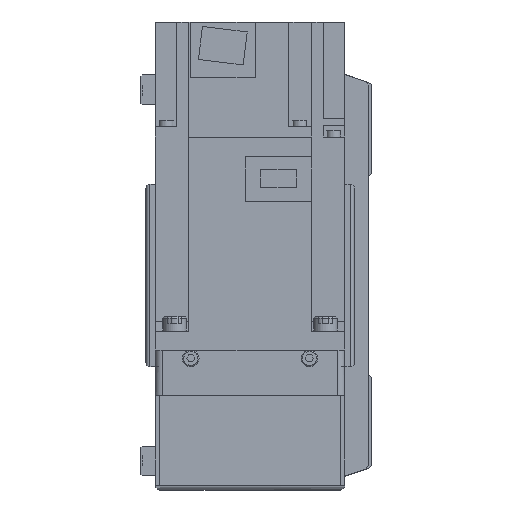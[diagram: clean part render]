
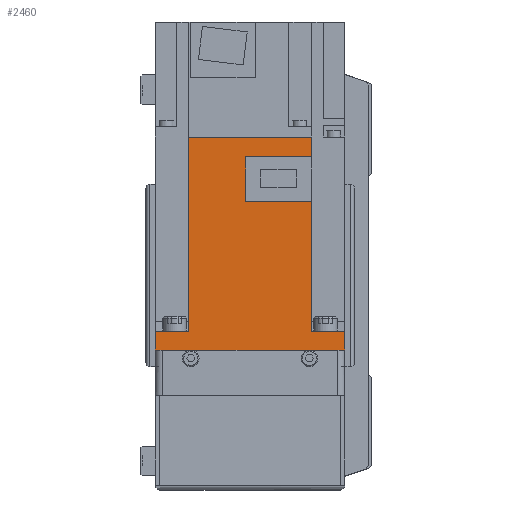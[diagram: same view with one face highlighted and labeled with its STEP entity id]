
A CAD part, left-side view. The second image highlights one B-rep face of the part: STEP entity #2460.
In plain terms, the highlighted planar face has unit normal (-1, 0, 0) as drawn and (1, 0, 0) by its records, which use the part's own axes.
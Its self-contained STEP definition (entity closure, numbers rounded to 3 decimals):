
#2460 = ADVANCED_FACE( '', ( #5361 ), #5362, .F. );
#5361 = FACE_OUTER_BOUND( '', #8669, .T. );
#5362 = PLANE( '', #8670 );
#8669 = EDGE_LOOP( '', ( #15677, #15678, #15679, #15680, #15681, #15682, #15683, #15684, #15685, #15686, #15687, #15688 ) );
#8670 = AXIS2_PLACEMENT_3D( '', #15689, #15690, #15691 );
#15677 = ORIENTED_EDGE( '', *, *, #19503, .F. );
#15678 = ORIENTED_EDGE( '', *, *, #21650, .F. );
#15679 = ORIENTED_EDGE( '', *, *, #21651, .F. );
#15680 = ORIENTED_EDGE( '', *, *, #21652, .T. );
#15681 = ORIENTED_EDGE( '', *, *, #21653, .F. );
#15682 = ORIENTED_EDGE( '', *, *, #20819, .T. );
#15683 = ORIENTED_EDGE( '', *, *, #21559, .T. );
#15684 = ORIENTED_EDGE( '', *, *, #20297, .F. );
#15685 = ORIENTED_EDGE( '', *, *, #21654, .F. );
#15686 = ORIENTED_EDGE( '', *, *, #21655, .F. );
#15687 = ORIENTED_EDGE( '', *, *, #21629, .F. );
#15688 = ORIENTED_EDGE( '', *, *, #21656, .F. );
#15689 = CARTESIAN_POINT( '', ( 40., 89.8, 40. ) );
#15690 = DIRECTION( '', ( -1., 0., 0. ) );
#15691 = DIRECTION( '', ( 0., 0., 1. ) );
#19503 = EDGE_CURVE( '', #23503, #23505, #23506, .T. );
#20297 = EDGE_CURVE( '', #24809, #24811, #24812, .T. );
#20819 = EDGE_CURVE( '', #25614, #25612, #25615, .T. );
#21559 = EDGE_CURVE( '', #25612, #24811, #26629, .T. );
#21629 = EDGE_CURVE( '', #26717, #26718, #26719, .T. );
#21650 = EDGE_CURVE( '', #26744, #23503, #26745, .T. );
#21651 = EDGE_CURVE( '', #26746, #26744, #26747, .T. );
#21652 = EDGE_CURVE( '', #26746, #26748, #26749, .T. );
#21653 = EDGE_CURVE( '', #25614, #26748, #26750, .T. );
#21654 = EDGE_CURVE( '', #26751, #24809, #26752, .T. );
#21655 = EDGE_CURVE( '', #26718, #26751, #26753, .T. );
#21656 = EDGE_CURVE( '', #23505, #26717, #26754, .T. );
#23503 = VERTEX_POINT( '', #29124 );
#23505 = VERTEX_POINT( '', #29127 );
#23506 = LINE( '', #29128, #29129 );
#24809 = VERTEX_POINT( '', #31066 );
#24811 = VERTEX_POINT( '', #31069 );
#24812 = LINE( '', #31070, #31071 );
#25612 = VERTEX_POINT( '', #32317 );
#25614 = VERTEX_POINT( '', #32320 );
#25615 = LINE( '', #32321, #32322 );
#26629 = LINE( '', #33883, #33884 );
#26717 = VERTEX_POINT( '', #34000 );
#26718 = VERTEX_POINT( '', #34001 );
#26719 = LINE( '', #34002, #34003 );
#26744 = VERTEX_POINT( '', #34038 );
#26745 = LINE( '', #34039, #34040 );
#26746 = VERTEX_POINT( '', #34041 );
#26747 = LINE( '', #34042, #34043 );
#26748 = VERTEX_POINT( '', #34044 );
#26749 = LINE( '', #34045, #34046 );
#26750 = LINE( '', #34047, #34048 );
#26751 = VERTEX_POINT( '', #34049 );
#26752 = LINE( '', #34050, #34051 );
#26753 = LINE( '', #34052, #34053 );
#26754 = LINE( '', #34054, #34055 );
#29124 = CARTESIAN_POINT( '', ( 40., 81.4, -25.95 ) );
#29127 = CARTESIAN_POINT( '', ( 40., 81.4, 1.8 ) );
#29128 = CARTESIAN_POINT( '', ( 40., 81.4, -26. ) );
#29129 = VECTOR( '', #36033, 1000. );
#31066 = CARTESIAN_POINT( '', ( 40., 8., -40. ) );
#31069 = CARTESIAN_POINT( '', ( 40., 0., -40. ) );
#31070 = CARTESIAN_POINT( '', ( 40., 89.8, -40. ) );
#31071 = VECTOR( '', #37022, 1000. );
#32317 = CARTESIAN_POINT( '', ( 40., 0., 40. ) );
#32320 = CARTESIAN_POINT( '', ( 40., 8., 40. ) );
#32321 = CARTESIAN_POINT( '', ( 40., 89.8, 40. ) );
#32322 = VECTOR( '', #37723, 1000. );
#33883 = CARTESIAN_POINT( '', ( 40., 0., 40. ) );
#33884 = VECTOR( '', #38606, 1000. );
#34000 = CARTESIAN_POINT( '', ( 40., 62.8, 1.8 ) );
#34001 = CARTESIAN_POINT( '', ( 40., 62.8, -25.95 ) );
#34002 = CARTESIAN_POINT( '', ( 40., 62.8, 1.8 ) );
#34003 = VECTOR( '', #38671, 1000. );
#34038 = CARTESIAN_POINT( '', ( 40., 89.8, -25.95 ) );
#34039 = CARTESIAN_POINT( '', ( 40., 158., -25.95 ) );
#34040 = VECTOR( '', #38688, 1000. );
#34041 = CARTESIAN_POINT( '', ( 40., 89.8, 25.95 ) );
#34042 = CARTESIAN_POINT( '', ( 40., 89.8, 40. ) );
#34043 = VECTOR( '', #38689, 1000. );
#34044 = CARTESIAN_POINT( '', ( 40., 8., 25.95 ) );
#34045 = CARTESIAN_POINT( '', ( 40., 158., 25.95 ) );
#34046 = VECTOR( '', #38690, 1000. );
#34047 = CARTESIAN_POINT( '', ( 40., 8., 40. ) );
#34048 = VECTOR( '', #38691, 1000. );
#34049 = CARTESIAN_POINT( '', ( 40., 8., -25.95 ) );
#34050 = CARTESIAN_POINT( '', ( 40., 8., 40. ) );
#34051 = VECTOR( '', #38692, 1000. );
#34052 = CARTESIAN_POINT( '', ( 40., 158., -25.95 ) );
#34053 = VECTOR( '', #38693, 1000. );
#34054 = CARTESIAN_POINT( '', ( 40., 81.4, 1.8 ) );
#34055 = VECTOR( '', #38694, 1000. );
#36033 = DIRECTION( '', ( 0., 0., 1. ) );
#37022 = DIRECTION( '', ( 0., -1., 0. ) );
#37723 = DIRECTION( '', ( 0., -1., 0. ) );
#38606 = DIRECTION( '', ( 0., 0., -1. ) );
#38671 = DIRECTION( '', ( 0., 0., -1. ) );
#38688 = DIRECTION( '', ( 0., -1., 0. ) );
#38689 = DIRECTION( '', ( 0., 0., -1. ) );
#38690 = DIRECTION( '', ( 0., -1., 0. ) );
#38691 = DIRECTION( '', ( 0., 0., -1. ) );
#38692 = DIRECTION( '', ( 0., 0., -1. ) );
#38693 = DIRECTION( '', ( 0., -1., 0. ) );
#38694 = DIRECTION( '', ( 0., -1., 0. ) );
